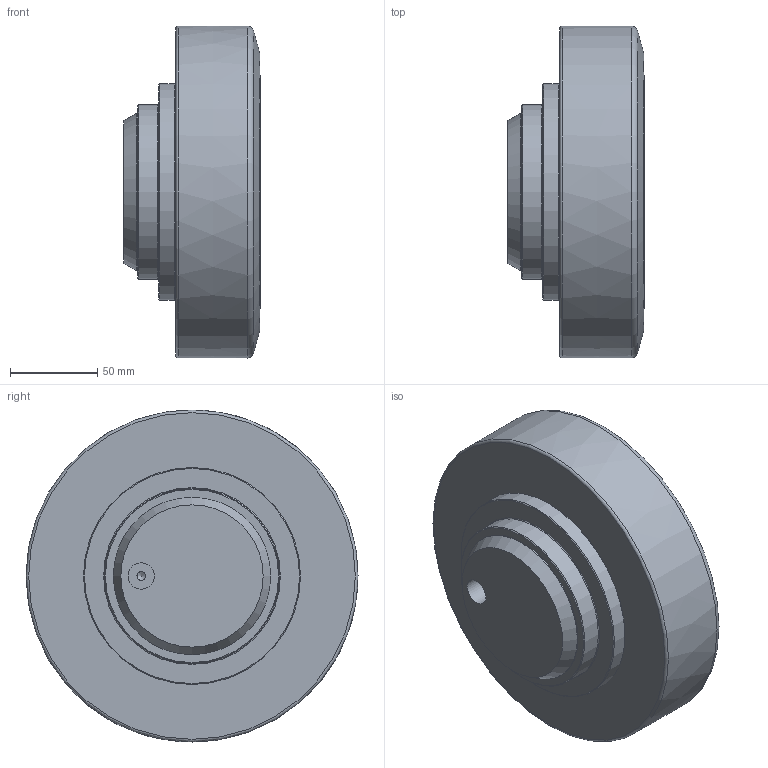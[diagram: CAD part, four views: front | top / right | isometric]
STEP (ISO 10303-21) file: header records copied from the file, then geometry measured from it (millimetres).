
FILE_DESCRIPTION(/* description */ ('-','CAx-IF Rec.Pracs.---Representation and Presentation of Product Manufacturing Information (PMI)---4.0---2014-10-13'),/* implementation_level */ '2;1');
FILE_NAME(/* name */ 'c:\temp\4175338b-38c5-4d33-bb1f-8ec551900140\3b876c9d-a54c-46c7-a080-3f3bec2f5728.stp',/* time_stamp */ '2020-04-01T16:09:40+02:00',/* author */ ('-'),/* organization */ ('NTI CADcenter A/S'),/* preprocessor_version */ 'ST-DEVELOPER v18',/* originating_system */ 'Autodesk Inventor 2020',/* authorisation */ '-');
FILE_SCHEMA (('AP242_MANAGED_MODEL_BASED_3D_ENGINEERING_MIM_LF { 1 0 10303 442 1 1 4 }'));
Length unit declared in the file: millimetre
Products named in the file (1): MR 190.0410_Kontur
Bounding box: 78.15 x 189.76 x 189.76 mm (x, y, z)
Volume: 1598543.5 mm3; surface area: 92080.9 mm2
Topology: 1 solids, 1 shells, 92 faces, 220 edges, 154 vertices
Faces by surface type: plane 62, cone 13, cylinder 12, torus 4, bspline 1
Full cylindrical faces by diameter (mm): 2.5 x1, 4.917 x1, 15 x1, 16 x6, 90 x1, 100 x1, 124 x1
Entity records: 2812 total; most frequent: CARTESIAN_POINT 526, DIRECTION 485, ORIENTED_EDGE 438, EDGE_CURVE 219, AXIS2_PLACEMENT_3D 176, VERTEX_POINT 154, LINE 133, VECTOR 133
